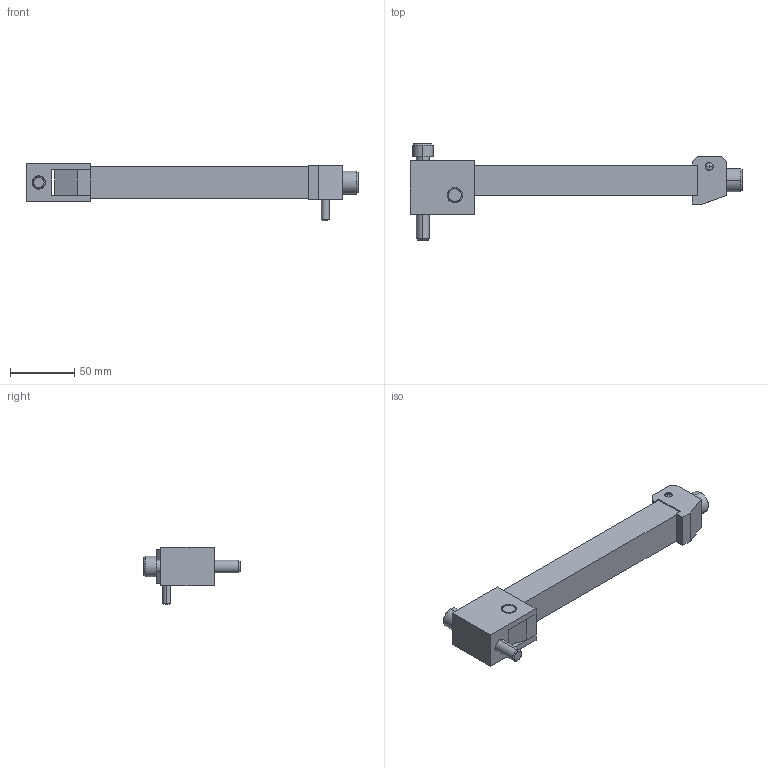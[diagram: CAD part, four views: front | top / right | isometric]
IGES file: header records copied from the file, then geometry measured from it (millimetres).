
Start section: START RECORD GO HERE.
Global section: file name: ZH90-2.igs; native system: DASSAULT SYSTEMES CATIA V5 R20 - www.3ds.com; preprocessor: CATIA Version 5 Release 20 ; author: Utente; organization: NB04-ASUS; date: 20210221.173559; units: millimetre
Bounding box: 259 x 75 x 44.7 mm (x, y, z)
Surface area: 51677.6 mm2 (no closed solid volume)
Topology: 0 solids, 0 shells, 127 faces, 684 edges, 674 vertices
Faces by surface type: plane 67, revolution 60
